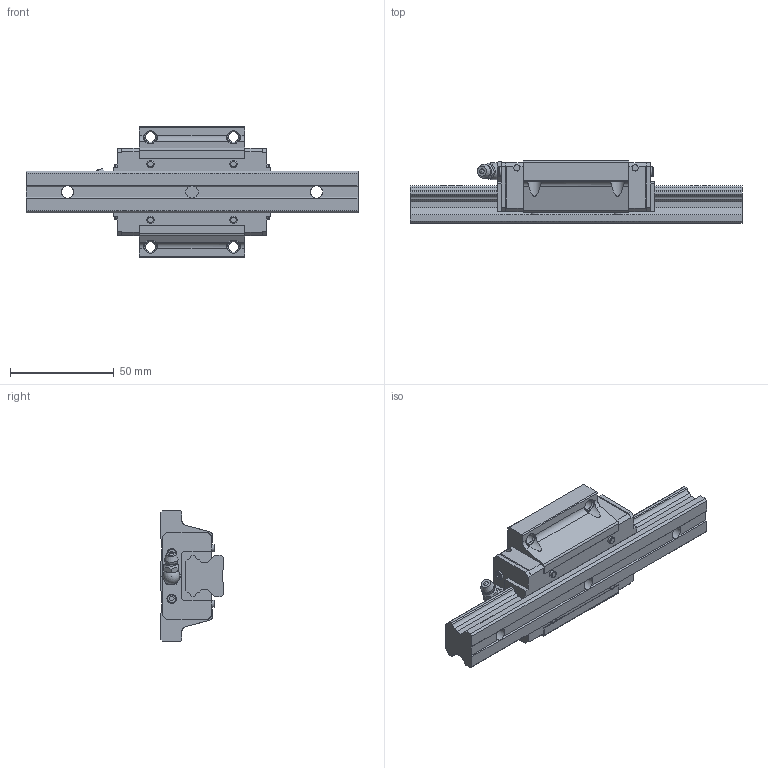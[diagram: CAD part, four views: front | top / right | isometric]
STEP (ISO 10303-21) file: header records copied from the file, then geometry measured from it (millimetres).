
FILE_DESCRIPTION(/* description */ ('STEP AP203'),/* implementation_level */ '2;1');
FILE_NAME(/* name */ 'HSR20M1A1SS-160L_G20_0_B-M6F_42_0_0_0_1',/* time_stamp */ '2024-05-23T06:09:06+02:00',/* author */ ('License CC BY-ND 4.0'),/* organization */ ('CADENAS'),/* preprocessor_version */ 'ST-DEVELOPER v19.3',/* originating_system */ 'PARTsolutions',/* authorisation */ ' ');
FILE_SCHEMA (('CONFIG_CONTROL_DESIGN'));
Length unit declared in the file: millimetre
Products named in the file (4): HSR20M1A1SS-160L_G20_0_B-M6F_42_0_0_0_1; HSR20M1A116020 Rail; HSR20M1ASSB-M6F1 Slider; hsr_ftht_B-M6F_grease_nipple_joint
Assembly tree (3 placements, depth 2):
  HSR20M1A1SS-160L_G20_0_B-M6F_42_0_0_0_1
    HSR20M1A116020 Rail
    HSR20M1ASSB-M6F1 Slider
    hsr_ftht_B-M6F_grease_nipple_joint
Bounding box: 160 x 30 x 63 mm (x, y, z)
Volume: 118100.6 mm3; surface area: 31738.2 mm2
Topology: 3 solids, 3 shells, 284 faces, 751 edges, 486 vertices
Faces by surface type: plane 204, cylinder 46, cone 21, torus 10, sphere 3
Full cylindrical faces by diameter (mm): 3 x4, 3.43 x4, 4.5 x4, 4.917 x6, 6 x4, 8 x1, 9.5 x3
Entity records: 8519 total; most frequent: CARTESIAN_POINT 1581, DIRECTION 1378, ORIENTED_EDGE 1370, EDGE_CURVE 685, LINE 504, VECTOR 504, VERTEX_POINT 476, AXIS2_PLACEMENT_3D 437
